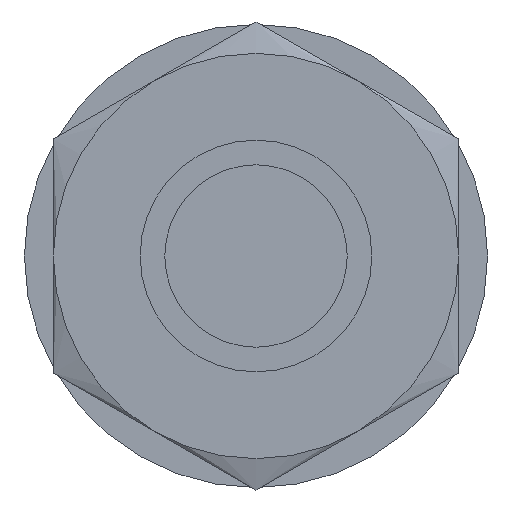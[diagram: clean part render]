
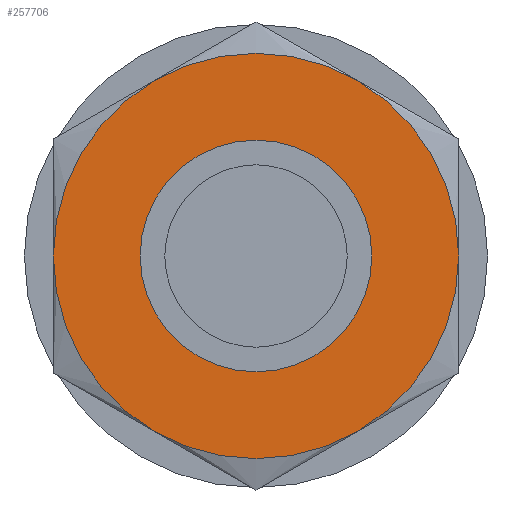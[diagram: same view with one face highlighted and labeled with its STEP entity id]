
A CAD part, left-side view. The second image highlights one B-rep face of the part: STEP entity #257706.
In plain terms, the highlighted planar face has unit normal (-1, 0, 0) as drawn and (0, 0, -1) by its records, which use the part's own axes.
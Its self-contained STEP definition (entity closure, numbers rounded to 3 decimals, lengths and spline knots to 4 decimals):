
#257057=CARTESIAN_POINT('',(0.,0.,0.));
#257058=DIRECTION('',(0.,0.,-1.));
#257059=DIRECTION('',(1.,0.,0.));
#257060=AXIS2_PLACEMENT_3D('',#257057,#257058,#257059);
#257065=CARTESIAN_POINT('',(0.,0.,0.));
#257066=DIRECTION('',(0.,0.,-1.));
#257067=DIRECTION('',(0.5,0.866,0.));
#257068=AXIS2_PLACEMENT_3D('',#257065,#257066,#257067);
#257073=CARTESIAN_POINT('',(0.,0.,0.));
#257074=DIRECTION('',(0.,0.,-1.));
#257075=DIRECTION('',(-1.,0.,0.));
#257076=AXIS2_PLACEMENT_3D('',#257073,#257074,#257075);
#257081=CARTESIAN_POINT('',(0.,0.,0.));
#257082=DIRECTION('',(0.,0.,-1.));
#257083=DIRECTION('',(-0.5,-0.866,0.));
#257084=AXIS2_PLACEMENT_3D('',#257081,#257082,#257083);
#257089=CARTESIAN_POINT('',(0.,0.,0.));
#257090=DIRECTION('',(0.,0.,-1.));
#257091=DIRECTION('',(0.,-1.,0.));
#257092=AXIS2_PLACEMENT_3D('',#257089,#257090,#257091);
#257097=CARTESIAN_POINT('',(0.,0.,0.));
#257098=DIRECTION('',(0.,0.,-1.));
#257099=DIRECTION('',(0.,1.,0.));
#257100=AXIS2_PLACEMENT_3D('',#257097,#257098,#257099);
#257105=CARTESIAN_POINT('',(0.,0.,0.));
#257106=DIRECTION('',(0.,0.,-1.));
#257107=DIRECTION('',(0.5,-0.866,0.));
#257108=AXIS2_PLACEMENT_3D('',#257105,#257106,#257107);
#257168=CARTESIAN_POINT('',(0.,0.,0.));
#257169=DIRECTION('',(0.,0.,-1.));
#257170=DIRECTION('',(-0.5,0.866,0.));
#257171=AXIS2_PLACEMENT_3D('',#257168,#257169,#257170);
#257621=CARTESIAN_POINT('',(-1.75,-3.0311,0.));
#257622=CARTESIAN_POINT('',(-3.5,0.,0.));
#257623=VERTEX_POINT('',#257621);
#257624=VERTEX_POINT('',#257622);
#257625=CARTESIAN_POINT('',(-1.75,3.0311,0.));
#257626=VERTEX_POINT('',#257625);
#257627=CARTESIAN_POINT('',(1.75,3.0311,0.));
#257628=CARTESIAN_POINT('',(3.5,0.,0.));
#257629=VERTEX_POINT('',#257627);
#257630=VERTEX_POINT('',#257628);
#257631=CARTESIAN_POINT('',(1.75,-3.0311,0.));
#257632=VERTEX_POINT('',#257631);
#257657=CARTESIAN_POINT('',(0.,-2.,0.));
#257658=CARTESIAN_POINT('',(0.,2.,0.));
#257659=VERTEX_POINT('',#257657);
#257660=VERTEX_POINT('',#257658);
#257681=CARTESIAN_POINT('',(0.,0.,0.));
#257682=DIRECTION('',(0.,0.,1.));
#257683=DIRECTION('',(1.,0.,0.));
#257684=AXIS2_PLACEMENT_3D('',#257681,#257682,#257683);
#257685=PLANE('',#257684);
#257687=ORIENTED_EDGE('',*,*,#257686,.F.);
#257689=ORIENTED_EDGE('',*,*,#257688,.F.);
#257691=ORIENTED_EDGE('',*,*,#257690,.F.);
#257693=ORIENTED_EDGE('',*,*,#257692,.F.);
#257695=ORIENTED_EDGE('',*,*,#257694,.F.);
#257697=ORIENTED_EDGE('',*,*,#257696,.F.);
#257698=EDGE_LOOP('',(#257687,#257689,#257691,#257693,#257695,#257697));
#257699=FACE_OUTER_BOUND('',#257698,.F.);
#257701=ORIENTED_EDGE('',*,*,#257700,.T.);
#257703=ORIENTED_EDGE('',*,*,#257702,.T.);
#257704=EDGE_LOOP('',(#257701,#257703));
#257705=FACE_BOUND('',#257704,.F.);
#257061=CIRCLE('',#257060,3.5);
#257069=CIRCLE('',#257068,3.5);
#257077=CIRCLE('',#257076,3.5);
#257085=CIRCLE('',#257084,3.5);
#257093=CIRCLE('',#257092,2.);
#257101=CIRCLE('',#257100,2.);
#257109=CIRCLE('',#257108,3.5);
#257172=CIRCLE('',#257171,3.5);
#257686=EDGE_CURVE('',#257632,#257623,#257109,.T.);
#257688=EDGE_CURVE('',#257630,#257632,#257061,.T.);
#257690=EDGE_CURVE('',#257629,#257630,#257069,.T.);
#257692=EDGE_CURVE('',#257626,#257629,#257172,.T.);
#257694=EDGE_CURVE('',#257624,#257626,#257077,.T.);
#257696=EDGE_CURVE('',#257623,#257624,#257085,.T.);
#257700=EDGE_CURVE('',#257659,#257660,#257093,.T.);
#257702=EDGE_CURVE('',#257660,#257659,#257101,.T.);
#257706=ADVANCED_FACE('',(#257699,#257705),#257685,.F.);
